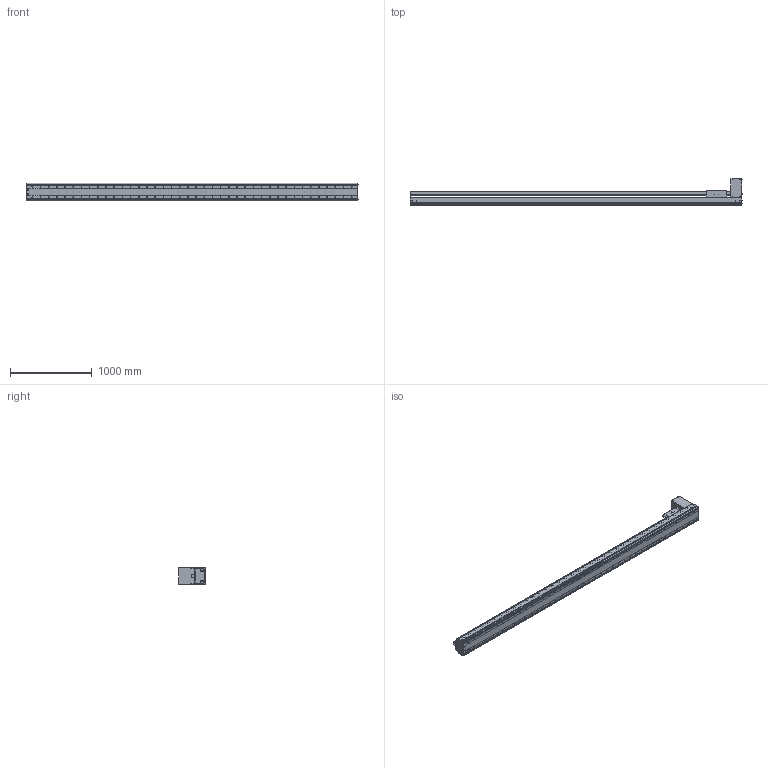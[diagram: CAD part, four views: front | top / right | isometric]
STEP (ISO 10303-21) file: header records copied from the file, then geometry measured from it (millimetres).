
FILE_DESCRIPTION((''),'2;1');
FILE_NAME('BE60J-BT-M19N-W55_IGS_PRT','2017-06-18T',(' '),(''),'PRO/ENGINEER BY PARAMETRIC TECHNOLOGY CORPORATION, 2015030','PRO/ENGINEER BY PARAMETRIC TECHNOLOGY CORPORATION, 2015030','');
FILE_SCHEMA(('CONFIG_CONTROL_DESIGN'));
Products named in the file (1): BE60J-BT-M19N-W55_IGS_PRT
Bounding box: 4054.4 x 327.5 x 214 mm (x, y, z)
Volume: 31873457.3 mm3; surface area: 9361479 mm2
Topology: 2 solids, 321 shells, 2873 faces, 8457 edges, 5658 vertices
Faces by surface type: cylinder 1584, plane 969, cone 224, torus 48, sphere 48
Entity records: 99509 total; most frequent: CARTESIAN_POINT 23683, DIRECTION 15557, ORIENTED_EDGE 15204, EDGE_CURVE 8224, AXIS2_PLACEMENT_3D 5958, VERTEX_POINT 5646, VECTOR 3641, LINE 3641
